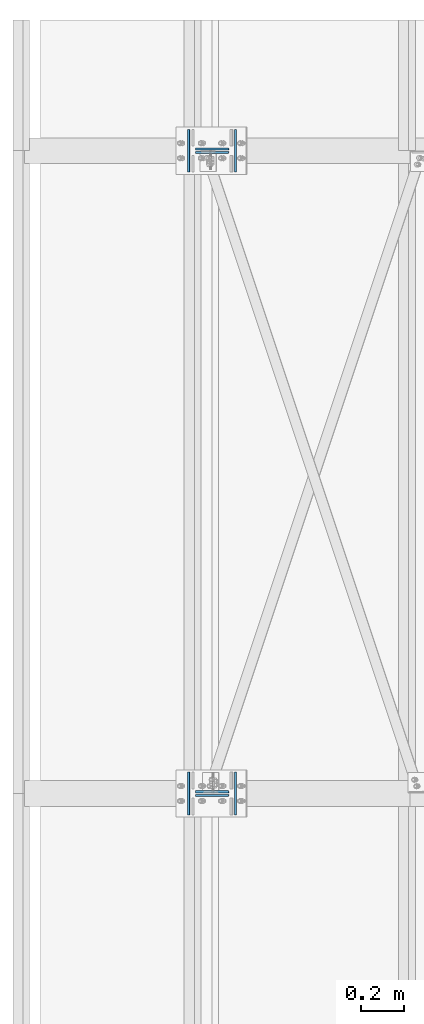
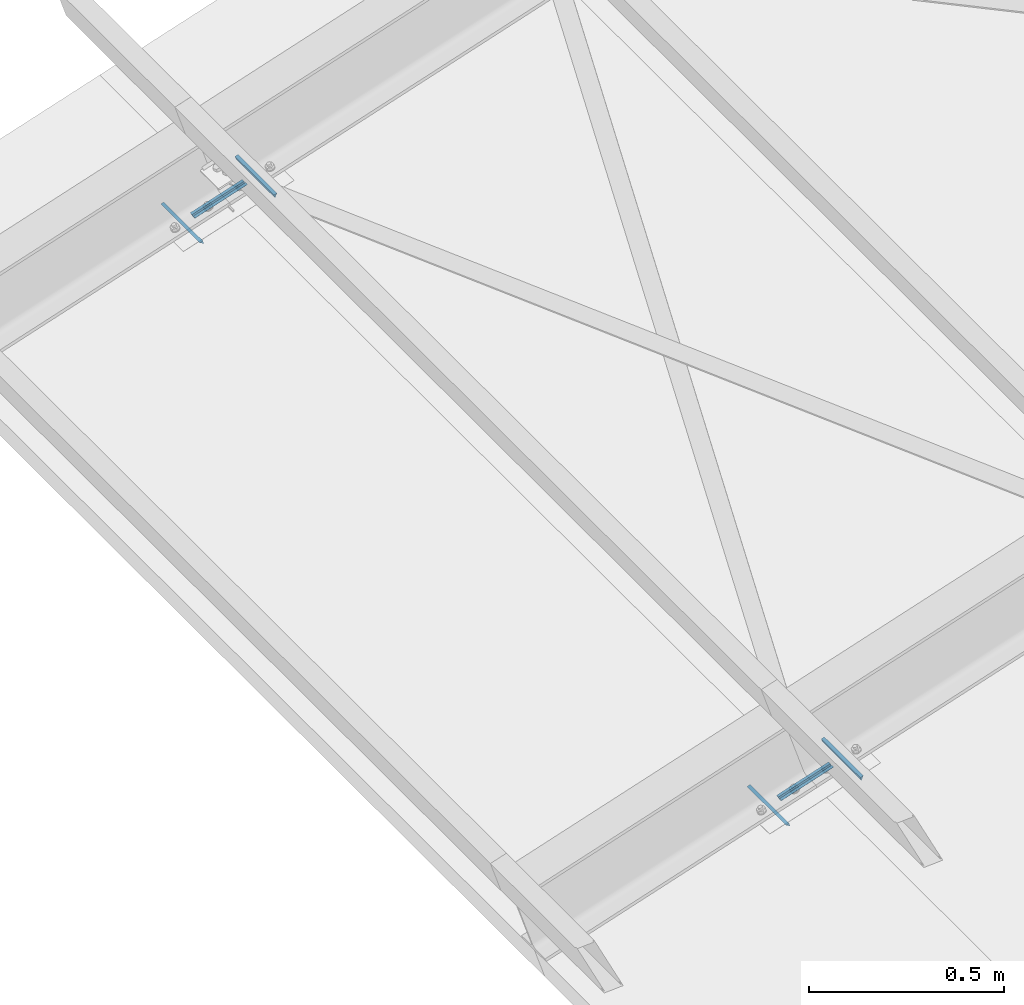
# One storey, part 18 of 53: 16 fasteners.
"""IFC4 building model written with IfcOpenShell, lengths in metres."""

from ifc_helpers import new_model, si_unit, frame, origin_with_axes, place, context, project, spatial, polyline, outline, extrude, type_object, element, save


model = new_model("IFC4")

# Units and contexts
model_context = context("Model", 3, precision=1e-05, world=origin_with_axes())
ifc_project = project(units=[si_unit("LENGTHUNIT", "METRE"), si_unit("AREAUNIT", "SQUARE_METRE"), si_unit("VOLUMEUNIT", "CUBIC_METRE"), si_unit("MASSUNIT", "GRAM", prefix="KILO"), si_unit("TIMEUNIT", "SECOND"), si_unit("PLANEANGLEUNIT", "RADIAN"), si_unit("SOLIDANGLEUNIT", "STERADIAN"), si_unit("THERMODYNAMICTEMPERATUREUNIT", "DEGREE_CELSIUS")], contexts=[model_context])

# Site, building, storey
placement_1 = place(None, origin_with_axes())
site = spatial("IfcSite", under=ifc_project, at=placement_1, Name="Italia", CompositionType="ELEMENT")
building = spatial("IfcBuilding", under=site, at=placement_1, Name="Capannone", CompositionType="ELEMENT")
storey_placement = place(None, frame((0.0, 0.0, 5.550000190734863), z_axis=(0.0, 0.0, 1.0), x_axis=(1.0, 0.0, 0.0)))
storey = spatial("IfcBuildingStorey", under=building, at=storey_placement, Name="Storey 1", CompositionType="ELEMENT", Elevation=5.550000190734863)

# Fasteners
fastener_type_1 = type_object("IfcFastenerType", Name="Collegamenti 0101_0001 0103_0003 0105_0005 0107_0007 0109_0009 0111_0011", PredefinedType="WELD")
placement_2 = place(placement_1, origin_with_axes())
fastener_1_placement = place(placement_2, origin_with_axes())
element("IfcFastener", 1, at=fastener_1_placement, inside=storey, type_object=fastener_type_1, Name="Collegamenti 0101_0001 0103_0003 0105_0005 0107_0007 0109_0009 0111_0011", context=model_context, shape_type="SweptSolid", body=[
    extrude(outline(polyline([(0.0, 0.0), (-0.0125507, -0.00658464), (-0.00937506, 0.00308037), (0.0, 0.0)])), frame((-0.114344, 11.9, 5.49669), z_axis=(0.0, 1.0, 0.0), x_axis=(-1.0, 0.0, 0.0)), (0.0, 0.0, 1.0), 0.2001),
])
fastener_type_2 = type_object("IfcFastenerType", Name="Collegamenti 0101_0001 0103_0003 0105_0005 0107_0007 0109_0009 0111_0011", PredefinedType="WELD")
fastener_2_placement = place(placement_2, origin_with_axes())
element("IfcFastener", 2, at=fastener_2_placement, inside=storey, type_object=fastener_type_2, Name="Collegamenti 0101_0001 0103_0003 0105_0005 0107_0007 0109_0009 0111_0011", context=model_context, shape_type="SweptSolid", body=[
    extrude(outline(polyline([(0.0, 0.0), (-0.00619942, -0.0127454), (-0.00937507, -0.00308037), (0.0, 0.0)])), frame((0.114311, 12.1, 5.57182), z_axis=(0.0, -1.0, 0.0), x_axis=(1.0, 0.0, 0.0)), (0.0, 0.0, 1.0), 0.2001),
])
fastener_type_3 = type_object("IfcFastenerType", Name="Collegamenti 0101_0001 0103_0003 0105_0005 0107_0007 0109_0009 0111_0011", PredefinedType="WELD")
fastener_3_placement = place(placement_2, origin_with_axes())
element("IfcFastener", 3, at=fastener_3_placement, inside=storey, type_object=fastener_type_3, Name="Collegamenti 0101_0001 0103_0003 0105_0005 0107_0007 0109_0009 0111_0011", context=model_context, shape_type="SweptSolid", body=[
    extrude(outline(polyline([(0.0, 0.0), (-0.00986767, -0.0101733), (-0.00986767, 0.0), (0.0, 0.0)])), frame((-0.076963, 12.0133, 5.50898), z_axis=(0.950031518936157, 0.0, 0.312153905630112), x_axis=(0.0, 1.0, 0.0)), (0.0, 0.0, 1.0), 0.161988),
])
fastener_type_4 = type_object("IfcFastenerType", Name="Collegamenti 0101_0001 0103_0003 0105_0005 0107_0007 0109_0009 0111_0011", PredefinedType="WELD")
fastener_4_placement = place(placement_2, origin_with_axes())
element("IfcFastener", 4, at=fastener_4_placement, inside=storey, type_object=fastener_type_4, Name="Collegamenti 0101_0001 0103_0003 0105_0005 0107_0007 0109_0009 0111_0011", context=model_context, shape_type="SweptSolid", body=[
    extrude(outline(polyline([(0.0, 0.0), (-0.00986767, -0.0101728), (-0.00986767, 0.0), (0.0, 0.0)])), frame((0.0769309, 11.9867, 5.55954), z_axis=(-0.950031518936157, 0.0, -0.312153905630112), x_axis=(0.0, -1.0, 0.0)), (0.0, 0.0, 1.0), 0.161988),
])
fastener_type_5 = type_object("IfcFastenerType", Name="Collegamenti 0101_0001 0103_0003 0105_0005 0107_0007 0109_0009 0111_0011", PredefinedType="WELD")
fastener_5_placement = place(placement_2, origin_with_axes())
element("IfcFastener", 5, at=fastener_5_placement, inside=storey, type_object=fastener_type_5, Name="Collegamenti 0101_0001 0103_0003 0105_0005 0107_0007 0109_0009 0111_0011", context=model_context, shape_type="SweptSolid", body=[
    extrude(outline(polyline([(0.0, 0.0), (-0.0125507, -0.00658464), (-0.00937506, 0.00308037), (0.0, 0.0)])), frame((-0.114344, 11.9, 5.49669), z_axis=(0.0, 1.0, 0.0), x_axis=(-1.0, 0.0, 0.0)), (0.0, 0.0, 1.0), 0.2001),
])
fastener_type_6 = type_object("IfcFastenerType", Name="Collegamenti 0101_0001 0103_0003 0105_0005 0107_0007 0109_0009 0111_0011", PredefinedType="WELD")
fastener_6_placement = place(placement_2, origin_with_axes())
element("IfcFastener", 6, at=fastener_6_placement, inside=storey, type_object=fastener_type_6, Name="Collegamenti 0101_0001 0103_0003 0105_0005 0107_0007 0109_0009 0111_0011", context=model_context, shape_type="SweptSolid", body=[
    extrude(outline(polyline([(0.0, 0.0), (-0.00619942, -0.0127454), (-0.00937507, -0.00308037), (0.0, 0.0)])), frame((0.114311, 12.1, 5.57182), z_axis=(0.0, -1.0, 0.0), x_axis=(1.0, 0.0, 0.0)), (0.0, 0.0, 1.0), 0.2001),
])
fastener_type_7 = type_object("IfcFastenerType", Name="Collegamenti 0101_0001 0103_0003 0105_0005 0107_0007 0109_0009 0111_0011", PredefinedType="WELD")
fastener_7_placement = place(placement_2, origin_with_axes())
element("IfcFastener", 7, at=fastener_7_placement, inside=storey, type_object=fastener_type_7, Name="Collegamenti 0101_0001 0103_0003 0105_0005 0107_0007 0109_0009 0111_0011", context=model_context, shape_type="SweptSolid", body=[
    extrude(outline(polyline([(0.0, 0.0), (-0.00986767, -0.0101733), (-0.00986767, 0.0), (0.0, 0.0)])), frame((-0.076963, 12.0133, 5.50898), z_axis=(0.950031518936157, 0.0, 0.312153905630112), x_axis=(0.0, 1.0, 0.0)), (0.0, 0.0, 1.0), 0.161988),
])
fastener_type_8 = type_object("IfcFastenerType", Name="Collegamenti 0101_0001 0103_0003 0105_0005 0107_0007 0109_0009 0111_0011", PredefinedType="WELD")
fastener_8_placement = place(placement_2, origin_with_axes())
element("IfcFastener", 8, at=fastener_8_placement, inside=storey, type_object=fastener_type_8, Name="Collegamenti 0101_0001 0103_0003 0105_0005 0107_0007 0109_0009 0111_0011", context=model_context, shape_type="SweptSolid", body=[
    extrude(outline(polyline([(0.0, 0.0), (-0.00986767, -0.0101728), (-0.00986767, 0.0), (0.0, 0.0)])), frame((0.0769309, 11.9867, 5.55954), z_axis=(-0.950031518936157, 0.0, -0.312153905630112), x_axis=(0.0, -1.0, 0.0)), (0.0, 0.0, 1.0), 0.161988),
])
fastener_type_9 = type_object("IfcFastenerType", Name="Collegamenti 0101_0001 0103_0003 0105_0005 0107_0007 0109_0009 0111_0011", PredefinedType="WELD")
fastener_9_placement = place(placement_2, origin_with_axes())
element("IfcFastener", 9, at=fastener_9_placement, inside=storey, type_object=fastener_type_9, Name="Collegamenti 0101_0001 0103_0003 0105_0005 0107_0007 0109_0009 0111_0011", context=model_context, shape_type="SweptSolid", body=[
    extrude(outline(polyline([(0.0, 0.0), (-0.0125507, -0.00658464), (-0.00937506, 0.00308037), (0.0, 0.0)])), frame((-0.114344, 14.9, 5.49669), z_axis=(0.0, 1.0, 0.0), x_axis=(-1.0, 0.0, 0.0)), (0.0, 0.0, 1.0), 0.2001),
])
fastener_type_10 = type_object("IfcFastenerType", Name="Collegamenti 0101_0001 0103_0003 0105_0005 0107_0007 0109_0009 0111_0011", PredefinedType="WELD")
fastener_10_placement = place(placement_2, origin_with_axes())
element("IfcFastener", 10, at=fastener_10_placement, inside=storey, type_object=fastener_type_10, Name="Collegamenti 0101_0001 0103_0003 0105_0005 0107_0007 0109_0009 0111_0011", context=model_context, shape_type="SweptSolid", body=[
    extrude(outline(polyline([(0.0, 0.0), (-0.00619942, -0.0127454), (-0.00937507, -0.00308037), (0.0, 0.0)])), frame((0.114311, 15.1, 5.57182), z_axis=(0.0, -1.0, 0.0), x_axis=(1.0, 0.0, 0.0)), (0.0, 0.0, 1.0), 0.2001),
])
fastener_type_11 = type_object("IfcFastenerType", Name="Collegamenti 0101_0001 0103_0003 0105_0005 0107_0007 0109_0009 0111_0011", PredefinedType="WELD")
fastener_11_placement = place(placement_2, origin_with_axes())
element("IfcFastener", 11, at=fastener_11_placement, inside=storey, type_object=fastener_type_11, Name="Collegamenti 0101_0001 0103_0003 0105_0005 0107_0007 0109_0009 0111_0011", context=model_context, shape_type="SweptSolid", body=[
    extrude(outline(polyline([(0.0, 0.0), (-0.00986767, -0.0101733), (-0.00986767, 0.0), (0.0, 0.0)])), frame((-0.076963, 15.0133, 5.50898), z_axis=(0.950031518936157, 0.0, 0.312153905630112), x_axis=(0.0, 1.0, 0.0)), (0.0, 0.0, 1.0), 0.161988),
])
fastener_type_12 = type_object("IfcFastenerType", Name="Collegamenti 0101_0001 0103_0003 0105_0005 0107_0007 0109_0009 0111_0011", PredefinedType="WELD")
fastener_12_placement = place(placement_2, origin_with_axes())
element("IfcFastener", 12, at=fastener_12_placement, inside=storey, type_object=fastener_type_12, Name="Collegamenti 0101_0001 0103_0003 0105_0005 0107_0007 0109_0009 0111_0011", context=model_context, shape_type="SweptSolid", body=[
    extrude(outline(polyline([(0.0, 0.0), (-0.00986767, -0.0101728), (-0.00986767, 0.0), (0.0, 0.0)])), frame((0.0769309, 14.9867, 5.55954), z_axis=(-0.950031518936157, 0.0, -0.312153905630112), x_axis=(0.0, -1.0, 0.0)), (0.0, 0.0, 1.0), 0.161988),
])
fastener_type_13 = type_object("IfcFastenerType", Name="Collegamenti 0101_0001 0103_0003 0105_0005 0107_0007 0109_0009 0111_0011", PredefinedType="WELD")
fastener_13_placement = place(placement_2, origin_with_axes())
element("IfcFastener", 13, at=fastener_13_placement, inside=storey, type_object=fastener_type_13, Name="Collegamenti 0101_0001 0103_0003 0105_0005 0107_0007 0109_0009 0111_0011", context=model_context, shape_type="SweptSolid", body=[
    extrude(outline(polyline([(0.0, 0.0), (-0.0125507, -0.00658464), (-0.00937506, 0.00308037), (0.0, 0.0)])), frame((-0.114344, 14.9, 5.49669), z_axis=(0.0, 1.0, 0.0), x_axis=(-1.0, 0.0, 0.0)), (0.0, 0.0, 1.0), 0.2001),
])
fastener_type_14 = type_object("IfcFastenerType", Name="Collegamenti 0101_0001 0103_0003 0105_0005 0107_0007 0109_0009 0111_0011", PredefinedType="WELD")
fastener_14_placement = place(placement_2, origin_with_axes())
element("IfcFastener", 14, at=fastener_14_placement, inside=storey, type_object=fastener_type_14, Name="Collegamenti 0101_0001 0103_0003 0105_0005 0107_0007 0109_0009 0111_0011", context=model_context, shape_type="SweptSolid", body=[
    extrude(outline(polyline([(0.0, 0.0), (-0.00619942, -0.0127454), (-0.00937507, -0.00308037), (0.0, 0.0)])), frame((0.114311, 15.1, 5.57182), z_axis=(0.0, -1.0, 0.0), x_axis=(1.0, 0.0, 0.0)), (0.0, 0.0, 1.0), 0.2001),
])
fastener_type_15 = type_object("IfcFastenerType", Name="Collegamenti 0101_0001 0103_0003 0105_0005 0107_0007 0109_0009 0111_0011", PredefinedType="WELD")
fastener_15_placement = place(placement_2, origin_with_axes())
element("IfcFastener", 15, at=fastener_15_placement, inside=storey, type_object=fastener_type_15, Name="Collegamenti 0101_0001 0103_0003 0105_0005 0107_0007 0109_0009 0111_0011", context=model_context, shape_type="SweptSolid", body=[
    extrude(outline(polyline([(0.0, 0.0), (-0.00986767, -0.0101733), (-0.00986767, 0.0), (0.0, 0.0)])), frame((-0.076963, 15.0133, 5.50898), z_axis=(0.950031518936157, 0.0, 0.312153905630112), x_axis=(0.0, 1.0, 0.0)), (0.0, 0.0, 1.0), 0.161988),
])
fastener_type_16 = type_object("IfcFastenerType", Name="Collegamenti 0101_0001 0103_0003 0105_0005 0107_0007 0109_0009 0111_0011", PredefinedType="WELD")
fastener_16_placement = place(placement_2, origin_with_axes())
element("IfcFastener", 16, at=fastener_16_placement, inside=storey, type_object=fastener_type_16, Name="Collegamenti 0101_0001 0103_0003 0105_0005 0107_0007 0109_0009 0111_0011", context=model_context, shape_type="SweptSolid", body=[
    extrude(outline(polyline([(0.0, 0.0), (-0.00986767, -0.0101728), (-0.00986767, 0.0), (0.0, 0.0)])), frame((0.0769309, 14.9867, 5.55954), z_axis=(-0.950031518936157, 0.0, -0.312153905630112), x_axis=(0.0, -1.0, 0.0)), (0.0, 0.0, 1.0), 0.161988),
])

save(model, "model.ifc")
